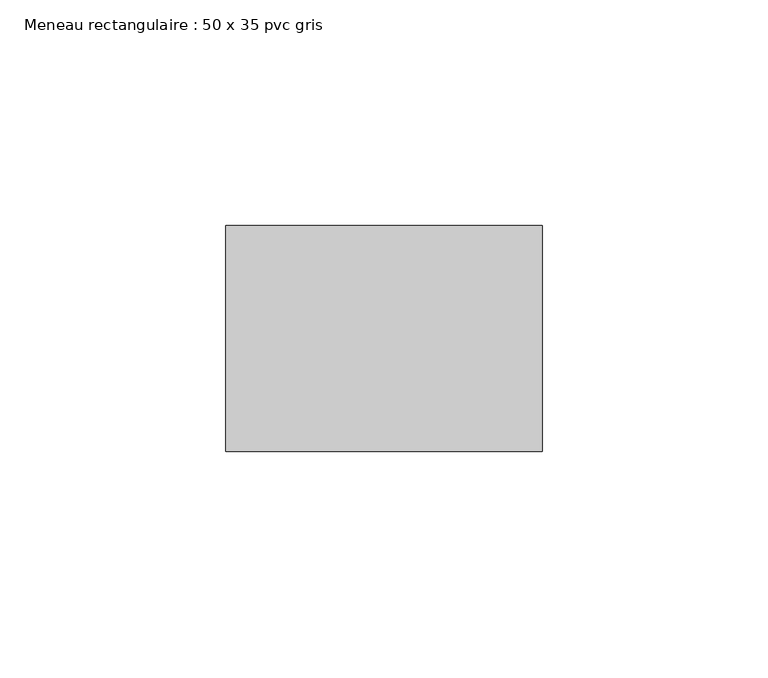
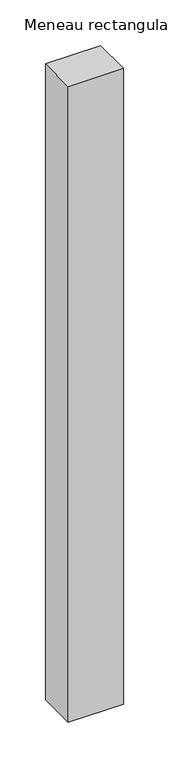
"""IFC4 building model written with IfcOpenShell, lengths in millimetres: member geometry, Meneau rectangulaire : 50 x 35 pvc gris."""

from ifc_helpers import new_model, si_unit, frame, origin, place, context, project, spatial, polyline, outline, extrude, source, transform, mapped, element, save


def meneau_rectangulaire_50_x_35_pvc_gris_0d475589(model_context):
    return source(origin(), model_context, "Body", "SweptSolid", [
        extrude(outline(polyline([(0.0, 0.0), (0.0, -50.0), (-70.0, -50.0), (-70.0, 0.0), (0.0, 0.0)])), frame((0.0, 0.0, -850.0), z_axis=(0.0, 0.0, 1.0), x_axis=(1.0, 0.0, 0.0)), (0.0, 0.0, 1.0), 850.0),
    ])


if __name__ == "__main__":
    model = new_model("IFC4")
    model_context = context("Model", 3, world=origin())
    ifc_project = project(units=[si_unit("LENGTHUNIT", "METRE", prefix="MILLI")], contexts=[model_context])
    site = spatial("IfcSite", under=ifc_project)
    building = spatial("IfcBuilding", under=site)
    placement = place(None, origin())
    meneau_rectangulaire_50_x_35_pvc_gris_shape = meneau_rectangulaire_50_x_35_pvc_gris_0d475589(model_context)
    element("IfcMember", 1, ObjectType="Meneau rectangulaire : 50 x 35 pvc gris", at=placement, inside=building, context=model_context, shape_type="MappedRepresentation", body=[
        mapped(meneau_rectangulaire_50_x_35_pvc_gris_shape, transform((0.0, 0.0, 0.0), x_axis=(1.0, 0.0, 0.0), y_axis=(0.0, 1.0, 0.0), z_axis=(0.0, 0.0, 1.0))),
    ])
    save(model, "model.ifc")
